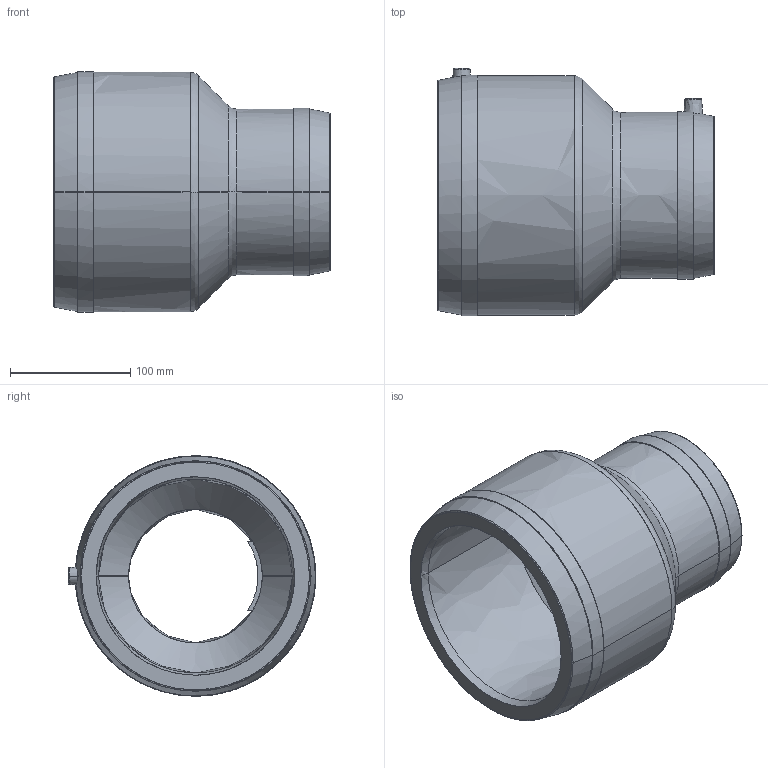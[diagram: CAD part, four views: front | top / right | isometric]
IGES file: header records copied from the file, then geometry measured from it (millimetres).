
Start section:  PTC IGES file: mr_d160-110_01.igs
Global section: file name: mr_d160-110_01.igs; native system: Pro/ENGINEER by Parametric Technology Corporation; preprocessor: 2011490; author: mtunjic; organization: Unknown; date: 20130816.162315; units: millimetre
Bounding box: 230 x 205.7 x 200 mm (x, y, z)
Surface area: 248694 mm2 (no closed solid volume)
Topology: 0 solids, 0 shells, 184 faces, 926 edges, 926 vertices
Faces by surface type: bspline 184
